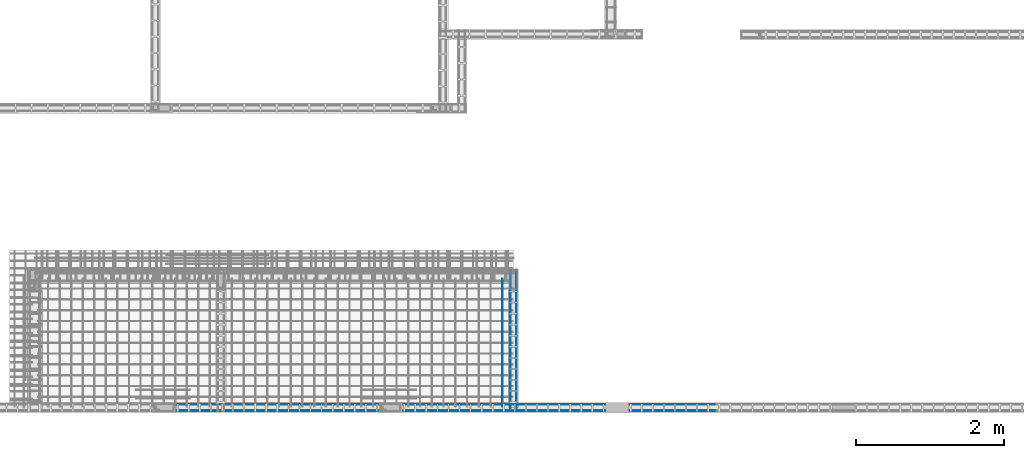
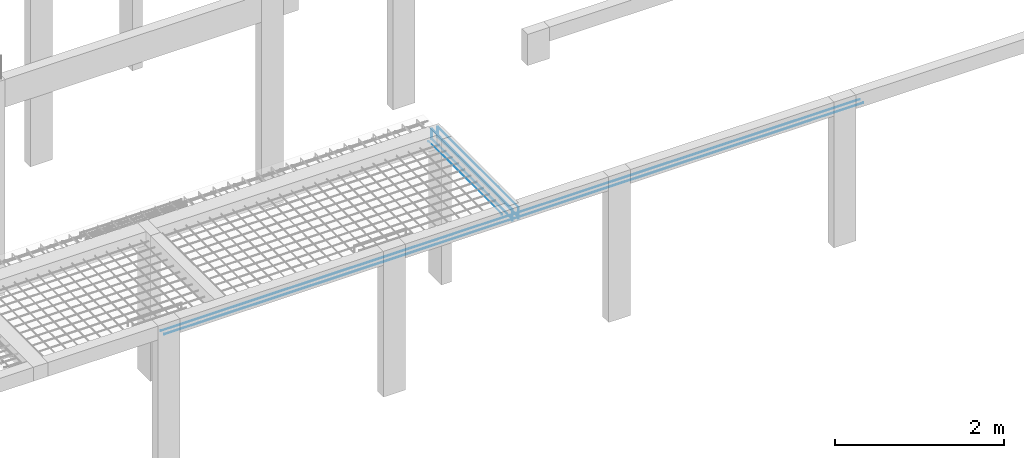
# One storey, part 102 of 236: 7 reinforcing bars.
"""IFC4 building model written with IfcOpenShell, lengths in centimetres."""

from ifc_helpers import new_model, entity, si_unit, derived_unit, frame, origin_with_axes, place, context, project, spatial, element, save


model = new_model("IFC4")

# Units and contexts
model_context = context("Model", 3, precision=1e-05, world=origin_with_axes(), identifier="Body")
ifc_project = project(units=[si_unit("LENGTHUNIT", "METRE", prefix="CENTI"), si_unit("VOLUMEUNIT", "CUBIC_METRE"), si_unit("AREAUNIT", "SQUARE_METRE"), si_unit("POWERUNIT", "WATT"), si_unit("LUMINOUSFLUXUNIT", "LUMEN"), si_unit("ELECTRICCURRENTUNIT", "AMPERE"), si_unit("PRESSUREUNIT", "PASCAL", prefix="KILO"), si_unit("MASSUNIT", "GRAM", prefix="KILO"), si_unit("PLANEANGLEUNIT", "RADIAN"), derived_unit("VOLUMETRICFLOWRATEUNIT", [(si_unit("LENGTHUNIT", "METRE"), 3), (si_unit("TIMEUNIT", "SECOND"), -1)])], contexts=[model_context])

# Site, building, storey
site_placement = place(None, frame((-4000.0, 0.0, 0.0), z_axis=(0.0, 0.0, 1.0), x_axis=(1.0, 0.0, 0.0)))
site = spatial("IfcSite", under=ifc_project, at=site_placement, Name="PADRÃO")
building_placement = place(site_placement, frame((0.0, 0.0, -14.0)))
building = spatial("IfcBuilding", under=site, at=building_placement, Name="CRECHE PRÉ-ESCOLA TIPO 2")
placement_1 = place(building_placement, origin_with_axes())
placement_2 = place(placement_1, frame((0.0, 0.0, 30.0), z_axis=(0.0, 0.0, 1.0), x_axis=(1.0, 0.0, 0.0)))
storey_placement = place(placement_2, frame((0.0, 0.0, 310.0), z_axis=(0.0, 0.0, 1.0), x_axis=(1.0, 0.0, 0.0)))
storey = spatial("IfcBuildingStorey", under=building, at=storey_placement, Name="TERREO", CompositionType="ELEMENT", Elevation=326.0)

# Reinforcing bars
reinforcing_bar_placement = place(storey_placement, frame((3219.02125, 96.75, -109.5), z_axis=(0.0, 0.0, 1.0), x_axis=(1.0, 0.0, 0.0)))
element("IfcReinforcingBar", 1, at=reinforcing_bar_placement, inside=storey, Name="L3 - Inferior X", BarLength=0.0, CrossSectionArea=1.9634954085e-05, NominalDiameter=0.5, PredefinedType="MAIN", context=model_context, shape_type="AdvancedSweptSolid", body=[
    entity("IfcSweptDiskSolid", entity("IfcCompositeCurve", [entity("IfcCompositeCurveSegment", "CONTINUOUS", True, entity("IfcPolyline", [entity("IfcCartesianPoint", [0.0, -86.75, -0.25]), entity("IfcCartesianPoint", [0.0, 86.75, -0.25])]))], False), 0.25),
])
for number, where, z_axis, x_axis, name in (
    (2, (3231.84292004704, 4.9, -116.7), (0.0, 0.0, 1.0), (1.0, 0.0, 0.0), "V323 - Longitudinal inferior"),
    (3, (3231.84292004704, 13.1, -116.7), (0.0, 0.0, 1.0), (1.0, 0.0, 0.0), "V323 - Longitudinal inferior"),
):
    element("IfcReinforcingBar", number, at=place(storey_placement, frame(where, z_axis=z_axis, x_axis=x_axis)), inside=storey, Name=name, BarLength=0.0, CrossSectionArea=5.0265482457e-05, NominalDiameter=0.8, PredefinedType="MAIN", context=model_context, shape_type="AdvancedSweptSolid", body=[
        entity("IfcSweptDiskSolid", entity("IfcCompositeCurve", [entity("IfcCompositeCurveSegment", "CONTINUOUS", True, entity("IfcPolyline", [entity("IfcCartesianPoint", [-476.342920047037, 0.0, -0.4]), entity("IfcCartesianPoint", [476.342920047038, 0.0, -0.4])]))], False), 0.4),
    ])
for number, where, z_axis, x_axis, name in (
    (4, (3229.89, 99.75, -116.7), (0.0, 0.0, 1.0), (1.0, 0.0, 0.0), "V327 - Longitudinal inferior"),
    (5, (3238.09, 99.75, -116.7), (0.0, 0.0, 1.0), (1.0, 0.0, 0.0), "V327 - Longitudinal inferior"),
):
    element("IfcReinforcingBar", number, at=place(storey_placement, frame(where, z_axis=z_axis, x_axis=x_axis)), inside=storey, Name=name, BarLength=0.0, CrossSectionArea=5.0265482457e-05, NominalDiameter=0.8, PredefinedType="MAIN", context=model_context, shape_type="AdvancedSweptSolid", body=[
        entity("IfcSweptDiskSolid", entity("IfcCompositeCurve", [entity("IfcCompositeCurveSegment", "CONTINUOUS", True, entity("IfcPolyline", [entity("IfcCartesianPoint", [0.0, -95.75, -0.4]), entity("IfcCartesianPoint", [0.0, 95.75, -0.4])]))], False), 0.4),
    ])
for number, where, z_axis, x_axis, name in (
    (6, (3238.09, 99.75, -102.496249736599), (0.0, 0.0, 1.0), (1.0, 0.0, 0.0), "V327 - Longitudinal superior"),
    (7, (3229.89, 99.75, -102.496249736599), (0.0, 0.0, 1.0), (1.0, 0.0, 0.0), "V327 - Longitudinal superior"),
):
    element("IfcReinforcingBar", number, at=place(storey_placement, frame(where, z_axis=z_axis, x_axis=x_axis)), inside=storey, Name=name, BarLength=0.0, CrossSectionArea=5.0265482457e-05, NominalDiameter=0.8, PredefinedType="MAIN", context=model_context, shape_type="AdvancedSweptSolid", body=[
        entity("IfcSweptDiskSolid", entity("IfcCompositeCurve", [entity("IfcCompositeCurveSegment", "CONTINUOUS", True, entity("IfcPolyline", [entity("IfcCartesianPoint", [0.0, -95.35, -16.403750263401]), entity("IfcCartesianPoint", [0.0, -95.35, -0.403750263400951])])), entity("IfcCompositeCurveSegment", "CONTINUOUS", True, entity("IfcPolyline", [entity("IfcCartesianPoint", [0.0, -95.35, -0.403750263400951]), entity("IfcCartesianPoint", [0.0, 95.35, -0.403750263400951])])), entity("IfcCompositeCurveSegment", "CONTINUOUS", True, entity("IfcPolyline", [entity("IfcCartesianPoint", [0.0, 95.35, -0.403750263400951]), entity("IfcCartesianPoint", [0.0, 95.35, -11.5526065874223])]))], False), 0.4),
    ])

save(model, "model.ifc")
